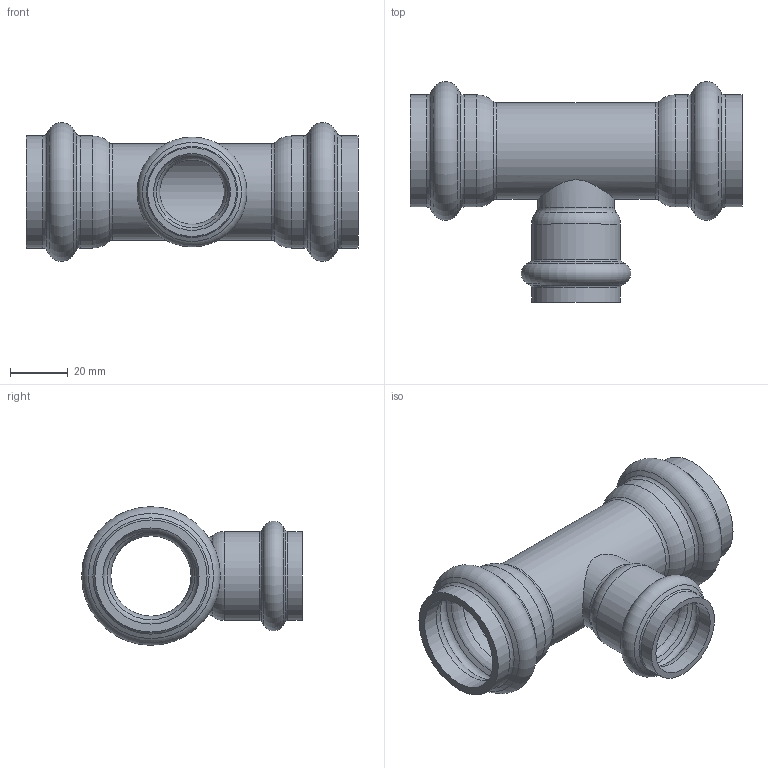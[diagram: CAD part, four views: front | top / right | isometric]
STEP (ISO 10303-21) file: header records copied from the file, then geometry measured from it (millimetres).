
FILE_DESCRIPTION(/* description */ ('VIC TEE RED. BRANCH STYLE P593 (P X P X P)','CAx-IF Rec.Pracs.---Representation and Presentation of Product Manufacturing Information (PMI)---4.0---2014-10-13'),/* implementation_level */ '2;1');
FILE_NAME(/* name */ 'C:\Users\Vjadhav\AppData\Roaming\Autodesk\ApplicationPlugins\Back Up\Victaulic_SS-Vic-Press-TP 304_Tee Reducing_Style P593 (VP)\Victaulic_SS-Vic-Press-TP 304_Tee Reducing_Style P593 (VP)_01.0x0.75 (25x20).stp',/* time_stamp */ '2020-08-12T18:32:25+05:00',/* author */ ('cgray'),/* organization */ ('Victaulic'),/* preprocessor_version */ 'ST-DEVELOPER v17.2',/* originating_system */ 'Autodesk Inventor 2019',/* authorisation */ '');
FILE_SCHEMA (('AP242_MANAGED_MODEL_BASED_3D_ENGINEERING_MIM_LF { 1 0 10303 442 1 1 4 }'));
Length unit declared in the file: inch
Products named in the file (1): P593-01.0x0.75
Bounding box: 115.32 x 76.66 x 48.16 mm (x, y, z)
Volume: 44489.1 mm3; surface area: 34840.7 mm2
Topology: 1 solids, 1 shells, 61 faces, 220 edges, 160 vertices
Faces by surface type: torus 30, cylinder 16, cone 12, plane 3
Full cylindrical faces by diameter (mm): 22.454 x1, 26.67 x3, 27.864 x1, 30.886 x2, 33.401 x5, 38.938 x4
Entity records: 2825 total; most frequent: CARTESIAN_POINT 563, DIRECTION 544, ORIENTED_EDGE 440, AXIS2_PLACEMENT_3D 257, EDGE_CURVE 220, CIRCLE 182, VERTEX_POINT 160, EDGE_LOOP 64
